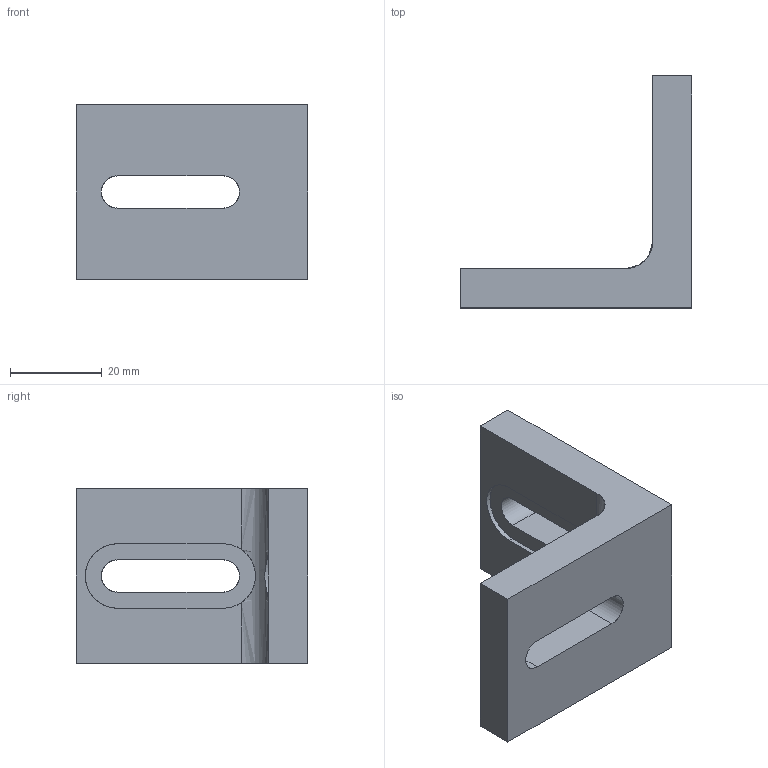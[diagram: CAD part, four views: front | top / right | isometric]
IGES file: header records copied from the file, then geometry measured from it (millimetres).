
Start section: SolidWorks IGES FILE using analytic representation for surfaces
Global section: file name: Y:\CONTENTCENTRAL\L_Shape\cache\LDEFAU0617200320541.igs; native system: SolidWorks 2003 by SolidWorks Corporation; preprocessor: Version 5.3; author: partstream; date: 030617.210224; units: millimetre
Bounding box: 50.4 x 50.4 x 38 mm (x, y, z)
Surface area: 9559.7 mm2 (no closed solid volume)
Topology: 0 solids, 0 shells, 31 faces, 461 edges, 461 vertices
Faces by surface type: bspline 18, revolution 13
